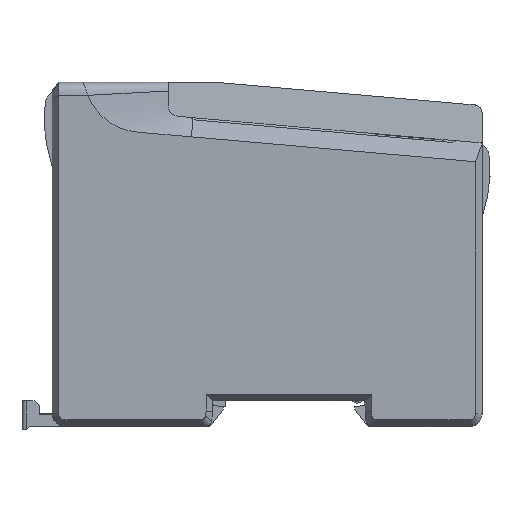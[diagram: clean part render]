
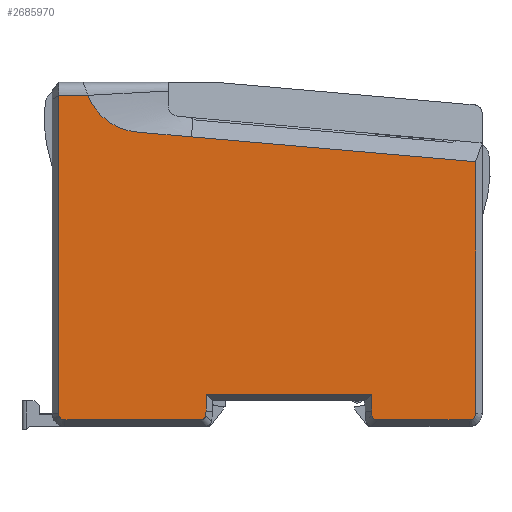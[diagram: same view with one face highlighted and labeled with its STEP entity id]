
A CAD part, top view. The second image highlights one B-rep face of the part: STEP entity #2685970.
In plain terms, the highlighted planar face has unit normal (0, 0, 1).
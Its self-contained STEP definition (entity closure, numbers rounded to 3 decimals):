
#2472030=CARTESIAN_POINT('',(43.4,-2.5,259.117));
#2472040=VERTEX_POINT('',#2472030);
#2472070=CARTESIAN_POINT('',(43.4,0.,259.117));
#2472080=DIRECTION('',(0.,-1.,0.));
#2472090=VECTOR('',#2472080,1.);
#2472100=LINE('',#2472070,#2472090);
#2472110=CARTESIAN_POINT('',(43.4,56.064,259.117));
#2472120=VERTEX_POINT('',#2472110);
#2472130=EDGE_CURVE('',#2472120,#2472040,#2472100,.T.);
#2476930=CARTESIAN_POINT('',(19.2,2.,
259.117));
#2476940=VERTEX_POINT('',#2476930);
#2476970=CARTESIAN_POINT('',(19.2,0.25,
259.117));
#2476980=DIRECTION('',(0.,-1.,0.));
#2476990=VECTOR('',#2476980,1.);
#2477000=LINE('',#2476970,#2476990);
#2477010=CARTESIAN_POINT('',(19.2,-1.935,
259.117));
#2477020=VERTEX_POINT('',#2477010);
#2477030=EDGE_CURVE('',#2476940,#2477020,#2477000,.T.);
#2478990=CARTESIAN_POINT('',(-19.3,2.,
259.117));
#2479000=VERTEX_POINT('',#2478990);
#2479130=CARTESIAN_POINT('',(-19.3,-1.935,
259.117));
#2479140=VERTEX_POINT('',#2479130);
#2479170=CARTESIAN_POINT('',(-19.3,-0.75,
259.117));
#2479180=DIRECTION('',(0.,1.,0.));
#2479190=VECTOR('',#2479180,1.);
#2479200=LINE('',#2479170,#2479190);
#2479210=EDGE_CURVE('',#2479140,#2479000,#2479200,.T.);
#2480820=CARTESIAN_POINT('',(41.9,-4.,259.117));
#2480830=DIRECTION('',(-1.,0.,0.));
#2480840=VECTOR('',#2480830,19.346);
#2480850=LINE('',#2480820,#2480840);
#2480860=CARTESIAN_POINT('',(41.9,-4.,259.117));
#2480870=VERTEX_POINT('',#2480860);
#2480880=CARTESIAN_POINT('',(20.554,-4.,
259.117));
#2480890=VERTEX_POINT('',#2480880);
#2480900=EDGE_CURVE('',#2480870,#2480890,#2480850,.T.);
#2482840=CARTESIAN_POINT('',(-20.654,-4.,
259.117));
#2482850=VERTEX_POINT('',#2482840);
#2483020=CARTESIAN_POINT('',(-52.1,-4.,259.117));
#2483030=VERTEX_POINT('',#2483020);
#2483060=CARTESIAN_POINT('',(-22.654,-4.,
259.117));
#2483070=DIRECTION('',(-1.,0.,0.));
#2483080=VECTOR('',#2483070,29.446);
#2483090=LINE('',#2483060,#2483080);
#2483100=EDGE_CURVE('',#2482850,#2483030,#2483090,.T.);
#2483340=CARTESIAN_POINT('',(-53.6,-2.5,
259.117));
#2483350=VERTEX_POINT('',#2483340);
#2483380=CARTESIAN_POINT('',(-52.1,-2.5,259.117));
#2483390=DIRECTION('',(0.,0.,1.));
#2483400=DIRECTION('',(-1.,0.,0.));
#2483410=AXIS2_PLACEMENT_3D('',#2483380,#2483390,#2483400);
#2483420=CIRCLE('',#2483410,1.5);
#2483430=EDGE_CURVE('',#2483350,#2483030,#2483420,.T.);
#2483570=CARTESIAN_POINT('',(-53.6,71.5,259.117));
#2483580=VERTEX_POINT('',#2483570);
#2483630=CARTESIAN_POINT('',(-53.6,71.5,259.117));
#2483640=DIRECTION('',(0.,-1.,0.));
#2483650=VECTOR('',#2483640,74.);
#2483660=LINE('',#2483630,#2483650);
#2483670=EDGE_CURVE('',#2483580,#2483350,#2483660,.T.);
#2502410=CARTESIAN_POINT('',(41.9,-2.5,259.117));
#2502420=DIRECTION('',(0.,0.,1.));
#2502430=DIRECTION('',(0.,-1.,0.));
#2502440=AXIS2_PLACEMENT_3D('',#2502410,#2502420,#2502430);
#2502450=CIRCLE('',#2502440,1.5);
#2502460=EDGE_CURVE('',#2480870,#2472040,#2502450,.T.);
#2508870=CARTESIAN_POINT('',(19.278,-2.832,
259.117));
#2508880=VERTEX_POINT('',#2508870);
#2509070=CARTESIAN_POINT('',(19.282,-2.869,
259.117));
#2509080=DIRECTION('',(0.087,-0.996,0.));
#2509090=VECTOR('',#2509080,1.);
#2509100=LINE('',#2509070,#2509090);
#2509110=EDGE_CURVE('',#2477020,#2508880,#2509100,.T.);
#2530770=CARTESIAN_POINT('',(-0.05,2.,
259.117));
#2530780=DIRECTION('',(-1.,0.,0.));
#2530790=VECTOR('',#2530780,1.);
#2530800=LINE('',#2530770,#2530790);
#2530810=EDGE_CURVE('',#2476940,#2479000,#2530800,.T.);
#2535130=CARTESIAN_POINT('',(-19.382,-2.869,
259.117));
#2535140=DIRECTION('',(0.087,0.996,0.));
#2535150=VECTOR('',#2535140,1.);
#2535160=LINE('',#2535130,#2535150);
#2535170=CARTESIAN_POINT('',(-19.378,-2.832,
259.117));
#2535180=VERTEX_POINT('',#2535170);
#2535190=EDGE_CURVE('',#2535180,#2479140,#2535160,.T.);
#2574500=CARTESIAN_POINT('',(-53.6,71.5,259.117));
#2574510=DIRECTION('',(1.,0.,0.));
#2574520=VECTOR('',#2574510,6.814);
#2574530=LINE('',#2574500,#2574520);
#2574540=CARTESIAN_POINT('',(-46.786,71.5,
259.117));
#2574550=VERTEX_POINT('',#2574540);
#2574560=EDGE_CURVE('',#2483580,#2574550,#2574530,.T.);
#2593580=CARTESIAN_POINT('',(-22.706,61.848,
259.117));
#2593590=VERTEX_POINT('',#2593580);
#2593620=CARTESIAN_POINT('',(-22.706,61.847,
259.117));
#2593630=CARTESIAN_POINT('',(-25.009,62.047,
259.117));
#2593640=CARTESIAN_POINT('',(-27.311,62.25,
259.117));
#2593650=CARTESIAN_POINT('',(-29.614,62.451,
259.117));
#2593660=CARTESIAN_POINT('',(-30.765,62.552,
259.117));
#2593670=CARTESIAN_POINT('',(-31.916,62.651,
259.117));
#2593680=CARTESIAN_POINT('',(-33.067,62.754,
259.117));
#2593690=CARTESIAN_POINT('',(-33.643,62.806,
259.117));
#2593700=CARTESIAN_POINT('',(-34.218,62.853,
259.117));
#2593710=CARTESIAN_POINT('',(-34.794,62.901,
259.117));
#2593720=CARTESIAN_POINT('',(-35.37,62.949,
259.117));
#2593730=CARTESIAN_POINT('',(-35.946,63.,
259.117));
#2593740=CARTESIAN_POINT('',(-36.516,63.094,
259.117));
#2593750=CARTESIAN_POINT('',(-38.801,63.468,
259.117));
#2593760=CARTESIAN_POINT('',(-40.956,64.501,
259.117));
#2593770=CARTESIAN_POINT('',(-42.741,65.966,
259.117));
#2593780=CARTESIAN_POINT('',(-44.516,67.423,
259.117));
#2593790=CARTESIAN_POINT('',(-45.985,69.338,
259.117));
#2593800=CARTESIAN_POINT('',(-46.786,71.5,
259.117));
#2593810=B_SPLINE_CURVE_WITH_KNOTS('',3,(#2593620,#2593630,#2593640,
#2593650,#2593660,#2593670,#2593680,#2593690,#2593700,#2593710,#2593720,
#2593730,#2593740,#2593750,#2593760,#2593770,#2593780,#2593790,#2593800)
,.UNSPECIFIED.,.F.,.F.,(4,3,3,3,3,3,4),(0.,6.934,
10.4,12.134,13.867,20.801,
27.737),.UNSPECIFIED.);
#2593820=EDGE_CURVE('',#2593590,#2574550,#2593810,.T.);
#2598580=CARTESIAN_POINT('',(21.213,-2.,
259.117));
#2598590=DIRECTION('',(0.,0.,1.));
#2598600=DIRECTION('',(0.676,0.737,0.));
#2598610=AXIS2_PLACEMENT_3D('',#2598580,#2598590,#2598600);
#2598620=ELLIPSE('',#2598610,2.282,1.6);
#2598630=EDGE_CURVE('',#2508880,#2480890,#2598620,.T.);
#2613070=CARTESIAN_POINT('',(-21.313,-2.,
259.117));
#2613080=DIRECTION('',(0.,0.,1.));
#2613090=DIRECTION('',(-0.676,0.737,0.));
#2613100=AXIS2_PLACEMENT_3D('',#2613070,#2613080,#2613090);
#2613110=ELLIPSE('',#2613100,2.282,1.6);
#2613120=EDGE_CURVE('',#2482850,#2535180,#2613110,.T.);
#2685690=CARTESIAN_POINT('',(53.232,-11.682,259.117));
#2685700=DIRECTION('',(0.,0.,1.));
#2685710=DIRECTION('',(1.,0.,0.));
#2685720=AXIS2_PLACEMENT_3D('',#2685690,#2685700,#2685710);
#2685730=PLANE('',#2685720);
#2685740=ORIENTED_EDGE('',*,*,#2530810,.F.);
#2685750=ORIENTED_EDGE('',*,*,#2479210,.T.);
#2685760=ORIENTED_EDGE('',*,*,#2535190,.T.);
#2685770=ORIENTED_EDGE('',*,*,#2613120,.T.);
#2685780=ORIENTED_EDGE('',*,*,#2483100,.F.);
#2685790=ORIENTED_EDGE('',*,*,#2483430,.T.);
#2685800=ORIENTED_EDGE('',*,*,#2483670,.T.);
#2685810=ORIENTED_EDGE('',*,*,#2574560,.F.);
#2685820=ORIENTED_EDGE('',*,*,#2593820,.T.);
#2685830=CARTESIAN_POINT('',(0.,59.861,259.117));
#2685840=DIRECTION('',(-0.996,0.087,0.));
#2685850=VECTOR('',#2685840,1.);
#2685860=LINE('',#2685830,#2685850);
#2685870=EDGE_CURVE('',#2472120,#2593590,#2685860,.T.);
#2685880=ORIENTED_EDGE('',*,*,#2685870,.T.);
#2685890=ORIENTED_EDGE('',*,*,#2472130,.F.);
#2685900=ORIENTED_EDGE('',*,*,#2502460,.T.);
#2685910=ORIENTED_EDGE('',*,*,#2480900,.F.);
#2685920=ORIENTED_EDGE('',*,*,#2598630,.T.);
#2685930=ORIENTED_EDGE('',*,*,#2509110,.T.);
#2685940=ORIENTED_EDGE('',*,*,#2477030,.T.);
#2685950=EDGE_LOOP('',(#2685940,#2685930,#2685920,#2685910,#2685900,
#2685890,#2685880,#2685820,#2685810,#2685800,#2685790,#2685780,#2685770,
#2685760,#2685750,#2685740));
#2685960=FACE_OUTER_BOUND('',#2685950,.T.);
#2685970=ADVANCED_FACE('',(#2685960),#2685730,.T.);
